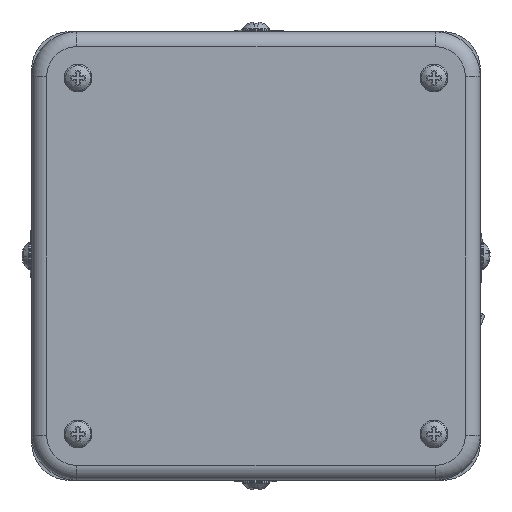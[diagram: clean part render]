
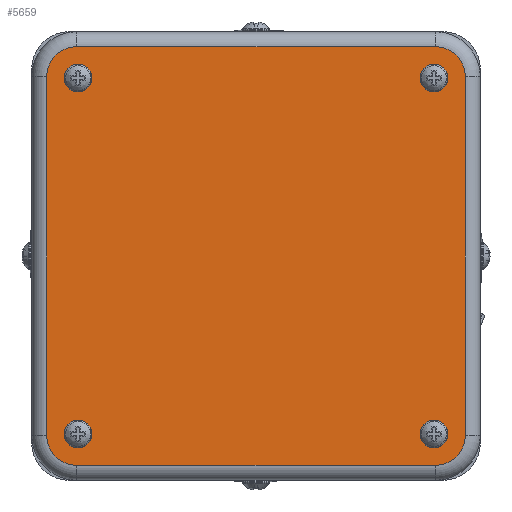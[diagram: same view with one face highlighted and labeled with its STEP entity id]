
A CAD part, left-side view. The second image highlights one B-rep face of the part: STEP entity #5659.
In plain terms, the highlighted planar face has unit normal (-1, 0, 0).
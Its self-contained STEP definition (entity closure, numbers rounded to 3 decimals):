
#1923=CARTESIAN_POINT('',(-108.076,-16.479,34.671));
#1924=VERTEX_POINT('',#1923);
#1925=CARTESIAN_POINT('',(-108.076,-16.479,37.471));
#1926=DIRECTION('',(1.0,0.0,0.0));
#1927=DIRECTION('',(0.0,0.0,1.0));
#1928=AXIS2_PLACEMENT_3D('',#1925,#1926,#1927);
#1929=CIRCLE('',#1928,2.8);
#1930=EDGE_CURVE('',#1924,#1924,#1929,.T.);
#2532=CARTESIAN_POINT('',(-108.076,-16.479,-36.747));
#2533=VERTEX_POINT('',#2532);
#2534=CARTESIAN_POINT('',(-108.076,-16.479,-33.947));
#2535=DIRECTION('',(1.0,0.0,0.0));
#2536=DIRECTION('',(0.0,0.0,1.0));
#2537=AXIS2_PLACEMENT_3D('',#2534,#2535,#2536);
#2538=CIRCLE('',#2537,2.8);
#2539=EDGE_CURVE('',#2533,#2533,#2538,.T.);
#5556=CARTESIAN_POINT('',(-108.076,12.203,-5.266));
#5557=DIRECTION('',(1.0,0.0,0.0));
#5558=DIRECTION('',(0.0,0.0,-1.0));
#5559=AXIS2_PLACEMENT_3D('',#5556,#5557,#5558);
#5560=PLANE('',#5559);
#5561=CARTESIAN_POINT('',(-108.076,-22.77,-34.238));
#5562=VERTEX_POINT('',#5561);
#5563=CARTESIAN_POINT('',(-108.076,-16.77,-40.238));
#5564=VERTEX_POINT('',#5563);
#5565=CARTESIAN_POINT('',(-108.076,-16.77,-34.238));
#5566=DIRECTION('',(1.0,0.,0.));
#5567=DIRECTION('',(0.,-0.707,-0.707));
#5568=AXIS2_PLACEMENT_3D('',#5565,#5566,#5567);
#5569=CIRCLE('',#5568,6.);
#5570=EDGE_CURVE('',#5562,#5564,#5569,.T.);
#5571=ORIENTED_EDGE('',*,*,#5570,.F.);
#5572=CARTESIAN_POINT('',(-108.076,-22.77,37.762));
#5573=VERTEX_POINT('',#5572);
#5574=CARTESIAN_POINT('',(-108.076,-22.77,37.762));
#5575=DIRECTION('',(0.0,0.0,-1.0));
#5576=VECTOR('',#5575,72.0);
#5577=LINE('',#5574,#5576);
#5578=EDGE_CURVE('',#5573,#5562,#5577,.T.);
#5579=ORIENTED_EDGE('',*,*,#5578,.F.);
#5580=CARTESIAN_POINT('',(-108.076,-16.77,43.762));
#5581=VERTEX_POINT('',#5580);
#5582=CARTESIAN_POINT('',(-108.076,-16.77,37.762));
#5583=DIRECTION('',(1.0,0.,0.));
#5584=DIRECTION('',(0.,-0.707,0.707));
#5585=AXIS2_PLACEMENT_3D('',#5582,#5583,#5584);
#5586=CIRCLE('',#5585,6.);
#5587=EDGE_CURVE('',#5581,#5573,#5586,.T.);
#5588=ORIENTED_EDGE('',*,*,#5587,.F.);
#5589=CARTESIAN_POINT('',(-108.076,55.23,43.762));
#5590=VERTEX_POINT('',#5589);
#5591=CARTESIAN_POINT('',(-108.076,55.23,43.762));
#5592=DIRECTION('',(0.0,-1.0,0.0));
#5593=VECTOR('',#5592,72.0);
#5594=LINE('',#5591,#5593);
#5595=EDGE_CURVE('',#5590,#5581,#5594,.T.);
#5596=ORIENTED_EDGE('',*,*,#5595,.F.);
#5597=CARTESIAN_POINT('',(-108.076,61.23,37.762));
#5598=VERTEX_POINT('',#5597);
#5599=CARTESIAN_POINT('',(-108.076,55.23,37.762));
#5600=DIRECTION('',(1.0,0.,0.));
#5601=DIRECTION('',(0.,0.707,0.707));
#5602=AXIS2_PLACEMENT_3D('',#5599,#5600,#5601);
#5603=CIRCLE('',#5602,6.);
#5604=EDGE_CURVE('',#5598,#5590,#5603,.T.);
#5605=ORIENTED_EDGE('',*,*,#5604,.F.);
#5606=CARTESIAN_POINT('',(-108.076,61.23,-34.238));
#5607=VERTEX_POINT('',#5606);
#5608=CARTESIAN_POINT('',(-108.076,61.23,-34.238));
#5609=DIRECTION('',(0.0,0.0,1.0));
#5610=VECTOR('',#5609,72.);
#5611=LINE('',#5608,#5610);
#5612=EDGE_CURVE('',#5607,#5598,#5611,.T.);
#5613=ORIENTED_EDGE('',*,*,#5612,.F.);
#5614=CARTESIAN_POINT('',(-108.076,55.23,-40.238));
#5615=VERTEX_POINT('',#5614);
#5616=CARTESIAN_POINT('',(-108.076,55.23,-34.238));
#5617=DIRECTION('',(1.0,0.,0.));
#5618=DIRECTION('',(0.,0.707,-0.707));
#5619=AXIS2_PLACEMENT_3D('',#5616,#5617,#5618);
#5620=CIRCLE('',#5619,6.);
#5621=EDGE_CURVE('',#5615,#5607,#5620,.T.);
#5622=ORIENTED_EDGE('',*,*,#5621,.F.);
#5623=CARTESIAN_POINT('',(-108.076,-16.77,-40.238));
#5624=DIRECTION('',(0.0,1.0,0.0));
#5625=VECTOR('',#5624,72.0);
#5626=LINE('',#5623,#5625);
#5627=EDGE_CURVE('',#5564,#5615,#5626,.T.);
#5628=ORIENTED_EDGE('',*,*,#5627,.F.);
#5629=EDGE_LOOP('',(#5571,#5579,#5588,#5596,#5605,#5613,#5622,#5628));
#5630=FACE_OUTER_BOUND('',#5629,.T.);
#5631=CARTESIAN_POINT('',(-108.076,54.939,34.671));
#5632=VERTEX_POINT('',#5631);
#5633=CARTESIAN_POINT('',(-108.076,54.939,37.471));
#5634=DIRECTION('',(1.0,0.0,0.0));
#5635=DIRECTION('',(0.0,0.0,1.0));
#5636=AXIS2_PLACEMENT_3D('',#5633,#5634,#5635);
#5637=CIRCLE('',#5636,2.8);
#5638=EDGE_CURVE('',#5632,#5632,#5637,.T.);
#5639=ORIENTED_EDGE('',*,*,#5638,.T.);
#5640=EDGE_LOOP('',(#5639));
#5641=FACE_BOUND('',#5640,.T.);
#5642=ORIENTED_EDGE('',*,*,#1930,.T.);
#5643=EDGE_LOOP('',(#5642));
#5644=FACE_BOUND('',#5643,.T.);
#5645=CARTESIAN_POINT('',(-108.076,54.939,-36.747));
#5646=VERTEX_POINT('',#5645);
#5647=CARTESIAN_POINT('',(-108.076,54.939,-33.947));
#5648=DIRECTION('',(1.0,0.0,0.0));
#5649=DIRECTION('',(0.0,0.0,1.0));
#5650=AXIS2_PLACEMENT_3D('',#5647,#5648,#5649);
#5651=CIRCLE('',#5650,2.8);
#5652=EDGE_CURVE('',#5646,#5646,#5651,.T.);
#5653=ORIENTED_EDGE('',*,*,#5652,.T.);
#5654=EDGE_LOOP('',(#5653));
#5655=FACE_BOUND('',#5654,.T.);
#5656=ORIENTED_EDGE('',*,*,#2539,.T.);
#5657=EDGE_LOOP('',(#5656));
#5658=FACE_BOUND('',#5657,.T.);
#5659=ADVANCED_FACE('',(#5630,#5641,#5644,#5655,#5658),#5560,.F.);
